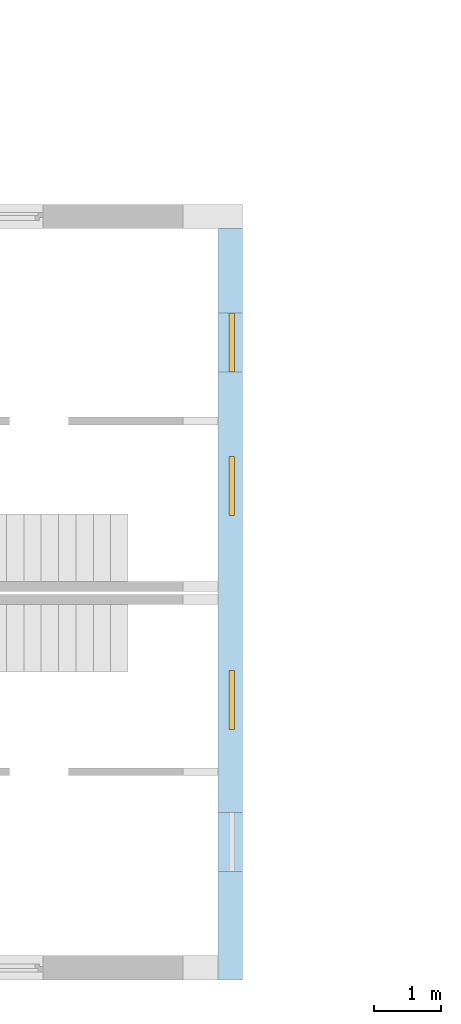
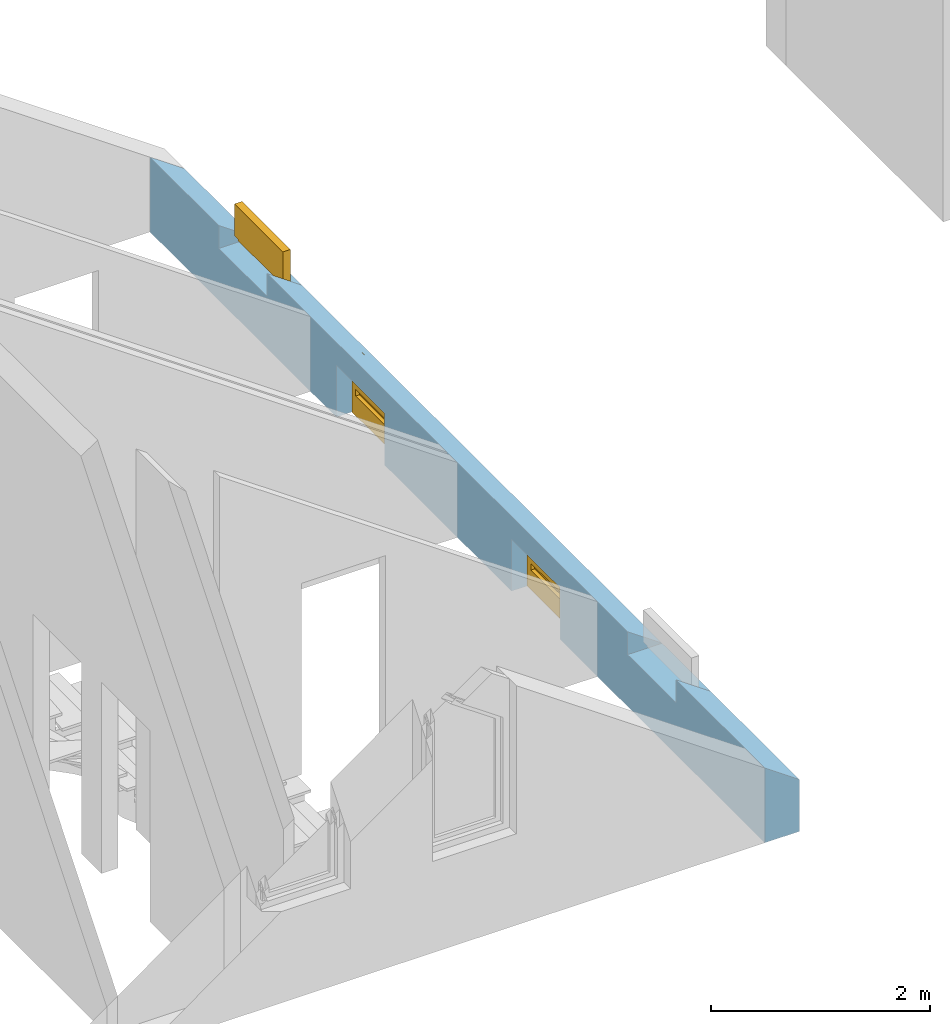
# One storey, part 8 of 23: 3 windows, 4 openings, plus 1 element that does not belong to this part.
"""IFC2X3 building model written with IfcOpenShell, lengths in millimetres."""

from ifc_helpers import new_model, entity, si_unit, converted_unit, frame, frame_2d, origin, origin_with_axes, place, context, subcontext, project, spatial, rectangle, extrude, clip, halfspace, faceted_brep, material, layer, layer_set, layer_usage, type_object, element, fill, save


model = new_model("IFC2X3")

# Units and contexts
model_context = context("Model", 3, precision=1e-05, world=origin())
body_context = subcontext(model_context, "Body", "Model", "MODEL_VIEW")
ifc_project = project(units=[si_unit("LENGTHUNIT", "METRE", prefix="MILLI"), converted_unit("PLANEANGLEUNIT", "DEGREE", entity("IfcPlaneAngleMeasure", 0.0174532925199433), si_unit("PLANEANGLEUNIT", "RADIAN"), dimensions=[0, 0, 0, 0, 0, 0, 0]), si_unit("AREAUNIT", "SQUARE_METRE"), si_unit("VOLUMEUNIT", "CUBIC_METRE")], contexts=[model_context])

# Building, storey
building_placement = place(None, origin())
building = spatial("IfcBuilding", under=ifc_project, at=building_placement, Name="Gebäude", CompositionType="ELEMENT")
storey_placement = place(building_placement, frame((0.0, 0.0, 5580.0), z_axis=(0.0, 0.0, 1.0), x_axis=(1.0, 0.0, 0.0)))
storey = spatial("IfcBuildingStorey", under=building, at=storey_placement, Name="DG.- Grundriss", CompositionType="ELEMENT", Elevation=5580.0)

# Wall, openings, windows
ifc_material_1 = material(Name="Poroton")
ifc_layer = layer(ifc_material_1, 365.0000000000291)
ifc_layer_set = layer_set([ifc_layer])
ifc_layer_usage = layer_usage(ifc_layer_set, "AXIS2", "POSITIVE", 0.0)
wall_placement = place(storey_placement, frame((142357.7928067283, 125274.8877321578, 0.0), z_axis=(0.0, 0.0, 1.0), x_axis=(0.0, 1.0, 0.0)))
wall = element("IfcWallStandardCase", 1, at=wall_placement, inside=storey, material=ifc_layer_usage, Name="<Unnamed Element>", context=body_context, shape_type="Clipping", body=[
    clip(extrude(rectangle(XDim=11250.00000031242, YDim=365.0000000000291, at=frame_2d((5625.000000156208, 182.5000000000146), x_axis=(1.0, 0.0))), origin_with_axes(), (0.0, 0.0, 1.0), 835.5757514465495), halfspace(frame((11250.00000031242, 365.0000000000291, 835.5757514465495), z_axis=(3.642746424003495e-16, 0.5735764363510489, -0.81915204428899), x_axis=(-1.0, 0.0, -4.850638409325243e-16)), True)),
])
opening_1_placement = place(wall_placement, frame((3750.0, 0.0, 0.0), z_axis=(0.0, 1.0, 0.0), x_axis=(0.0, 0.0, 1.0)))
opening_1 = element("IfcOpeningElement", 2, at=opening_1_placement, cuts=wall, Name="Fensteröffnung", ObjectType="Opening", context=body_context, shape_type="SweptSolid", body=[
    extrude(rectangle(XDim=579.99999999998, YDim=885.0, at=frame_2d((289.99999999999, 442.5), x_axis=(1.0, 0.0))), origin_with_axes(), (0.0, 0.0, 1.0), 365.0000000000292),
])
opening_2_placement = place(wall_placement, frame((6955.000000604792, 0.0, 0.0), z_axis=(0.0, 1.0, 0.0), x_axis=(0.0, 0.0, 1.0)))
opening_2 = element("IfcOpeningElement", 3, at=opening_2_placement, cuts=wall, Name="Fensteröffnung", ObjectType="Opening", context=body_context, shape_type="SweptSolid", body=[
    extrude(rectangle(XDim=579.9999999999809, YDim=885.0, at=frame_2d((289.9999999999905, 442.5), x_axis=(1.0, 0.0))), origin_with_axes(), (0.0, 0.0, 1.0), 365.0000000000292),
])
opening_3_placement = place(wall_placement, frame((9105.000000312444, 0.0, 579.9999999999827), z_axis=(0.0, 1.0, 0.0), x_axis=(0.0, 0.0, 1.0)))
opening_3 = element("IfcOpeningElement", 4, at=opening_3_placement, cuts=wall, Name="Fensteröffnung", ObjectType="Opening", context=body_context, shape_type="SweptSolid", body=[
    extrude(rectangle(XDim=440.0000000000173, YDim=885.0, at=frame_2d((220.0000000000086, 442.5), x_axis=(1.0, 0.0))), origin_with_axes(), (0.0, 0.0, 1.0), 365.0000000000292),
])
opening_4_placement = place(wall_placement, frame((1625.0, 0.0, 579.9999999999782), z_axis=(0.0, 1.0, 0.0), x_axis=(0.0, 0.0, 1.0)))
element("IfcOpeningElement", 5, at=opening_4_placement, cuts=wall, Name="Fensteröffnung", ObjectType="Opening", context=body_context, shape_type="SweptSolid", body=[
    extrude(rectangle(XDim=440.0000000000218, YDim=885.0, at=frame_2d((220.0000000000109, 442.5), x_axis=(1.0, 0.0))), origin_with_axes(), (0.0, 0.0, 1.0), 365.0000000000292),
])
ifc_material_2 = material()
window_style_1 = type_object("IfcWindowStyle", Name="Fenster", ConstructionType="NOTDEFINED", OperationType="USERDEFINED", ParameterTakesPrecedence=False, Sizeable=False)
window_1_placement = place(opening_1_placement, frame((0.0, 0.0, 0.0), z_axis=(1.0, 0.0, 0.0), x_axis=(0.0, 1.0, 0.0)))
window_1 = element("IfcWindow", 6, at=window_1_placement, inside=storey, type_object=window_style_1, material=ifc_material_2, Name="Fenster", OverallHeight=835.5757514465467, OverallWidth=885.0, context=body_context, shape_type="Brep", body=[
    faceted_brep([(885.0, 200.0000000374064, 664.024904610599), (815.0000000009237, 200.0000000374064, 664.024904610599), (815.0000000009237, 200.0000000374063, -2.449293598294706e-15), (885.0, 200.0000000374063, -2.449293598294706e-15), (885.0, 120.0000000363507, 2.449293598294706e-15), (815.0000000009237, 120.0000000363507, 2.449293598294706e-15), (815.0000000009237, 120.0000000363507, 664.024904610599), (885.0, 120.0000000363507, 664.024904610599), (885.0, 200.0000000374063, -2.449293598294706e-15), (885.0, 120.0000000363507, 2.449293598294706e-15), (885.0, 120.0000000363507, 664.024904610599), (885.0, 200.0000000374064, 664.024904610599), (815.0000000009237, 200.0000000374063, -2.449293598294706e-15), (815.0000000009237, 120.0000000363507, 2.449293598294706e-15), (885.0, 120.0000000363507, 2.449293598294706e-15), (885.0, 200.0000000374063, -2.449293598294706e-15), (815.0000000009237, 200.0000000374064, 664.024904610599), (815.0000000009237, 120.0000000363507, 664.024904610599), (815.0000000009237, 120.0000000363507, 2.449293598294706e-15), (815.0000000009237, 200.0000000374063, -2.449293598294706e-15), (885.0, 200.0000000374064, 664.024904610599), (885.0, 120.0000000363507, 664.024904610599), (815.0000000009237, 120.0000000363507, 664.024904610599), (815.0000000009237, 200.0000000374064, 664.024904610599)], [[[0, 1, 2, 3]], [[4, 5, 6, 7]], [[8, 9, 10, 11]], [[12, 13, 14, 15]], [[16, 17, 18, 19]], [[20, 21, 22, 23]]], orient=[[False], [False], [False], [False], [False], [False]]),
    faceted_brep([(69.99999999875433, 200.0000000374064, 664.024904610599), (-3.219611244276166e-10, 200.0000000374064, 664.024904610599), (-3.219611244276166e-10, 200.0000000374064, -2.449293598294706e-15), (69.99999999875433, 200.0000000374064, -2.449293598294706e-15), (69.99999999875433, 120.0000000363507, 2.449293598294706e-15), (-3.219611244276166e-10, 120.0000000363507, 2.449293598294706e-15), (-3.219611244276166e-10, 120.0000000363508, 664.024904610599), (69.99999999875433, 120.0000000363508, 664.024904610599), (69.99999999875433, 200.0000000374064, -2.449293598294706e-15), (69.99999999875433, 120.0000000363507, 2.449293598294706e-15), (69.99999999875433, 120.0000000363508, 664.024904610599), (69.99999999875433, 200.0000000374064, 664.024904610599), (-3.219611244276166e-10, 200.0000000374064, -2.449293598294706e-15), (-3.219611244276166e-10, 120.0000000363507, 2.449293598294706e-15), (69.99999999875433, 120.0000000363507, 2.449293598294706e-15), (69.99999999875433, 200.0000000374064, -2.449293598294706e-15), (-3.219611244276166e-10, 200.0000000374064, 664.024904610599), (-3.219611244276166e-10, 120.0000000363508, 664.024904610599), (-3.219611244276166e-10, 120.0000000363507, 2.449293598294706e-15), (-3.219611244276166e-10, 200.0000000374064, -2.449293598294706e-15), (69.99999999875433, 200.0000000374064, 664.024904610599), (69.99999999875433, 120.0000000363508, 664.024904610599), (-3.219611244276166e-10, 120.0000000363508, 664.024904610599), (-3.219611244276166e-10, 200.0000000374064, 664.024904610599)], [[[0, 1, 2, 3]], [[4, 5, 6, 7]], [[8, 9, 10, 11]], [[12, 13, 14, 15]], [[16, 17, 18, 19]], [[20, 21, 22, 23]]], orient=[[False], [False], [False], [False], [False], [False]]),
    faceted_brep([(815.0000000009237, 200.0000000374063, 220.0), (69.99999999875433, 200.0000000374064, 220.0), (69.99999999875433, 200.0000000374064, -2.449293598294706e-15), (815.0000000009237, 200.0000000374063, -2.449293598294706e-15), (815.0000000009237, 120.0000000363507, 2.449293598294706e-15), (69.99999999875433, 120.0000000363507, 2.449293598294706e-15), (69.99999999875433, 120.0000000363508, 220.0), (815.0000000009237, 120.0000000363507, 220.0), (815.0000000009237, 200.0000000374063, -2.449293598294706e-15), (815.0000000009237, 120.0000000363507, 2.449293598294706e-15), (815.0000000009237, 120.0000000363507, 220.0), (815.0000000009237, 200.0000000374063, 220.0), (69.99999999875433, 200.0000000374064, -2.449293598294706e-15), (69.99999999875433, 120.0000000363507, 2.449293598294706e-15), (815.0000000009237, 120.0000000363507, 2.449293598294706e-15), (815.0000000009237, 200.0000000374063, -2.449293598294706e-15), (69.99999999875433, 200.0000000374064, 220.0), (69.99999999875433, 120.0000000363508, 220.0), (69.99999999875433, 120.0000000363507, 2.449293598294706e-15), (69.99999999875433, 200.0000000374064, -2.449293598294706e-15), (815.0000000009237, 200.0000000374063, 220.0), (815.0000000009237, 120.0000000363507, 220.0), (69.99999999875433, 120.0000000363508, 220.0), (69.99999999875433, 200.0000000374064, 220.0)], [[[0, 1, 2, 3]], [[4, 5, 6, 7]], [[8, 9, 10, 11]], [[12, 13, 14, 15]], [[16, 17, 18, 19]], [[20, 21, 22, 23]]], orient=[[False], [False], [False], [False], [False], [False]]),
    faceted_brep([(815.0000000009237, 200.0000000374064, 664.024904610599), (69.99999999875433, 200.0000000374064, 664.024904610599), (69.99999999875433, 200.0000000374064, 294.0249046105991), (815.0000000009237, 200.0000000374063, 294.0249046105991), (815.0000000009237, 120.0000000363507, 294.0249046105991), (69.99999999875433, 120.0000000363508, 294.0249046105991), (69.99999999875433, 120.0000000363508, 664.024904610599), (815.0000000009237, 120.0000000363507, 664.024904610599), (815.0000000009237, 200.0000000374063, 294.0249046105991), (815.0000000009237, 120.0000000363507, 294.0249046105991), (815.0000000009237, 120.0000000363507, 664.024904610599), (815.0000000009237, 200.0000000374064, 664.024904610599), (69.99999999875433, 200.0000000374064, 294.0249046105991), (69.99999999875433, 120.0000000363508, 294.0249046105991), (815.0000000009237, 120.0000000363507, 294.0249046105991), (815.0000000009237, 200.0000000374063, 294.0249046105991), (69.99999999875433, 200.0000000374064, 664.024904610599), (69.99999999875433, 120.0000000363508, 664.024904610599), (69.99999999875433, 120.0000000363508, 294.0249046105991), (69.99999999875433, 200.0000000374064, 294.0249046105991), (815.0000000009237, 200.0000000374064, 664.024904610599), (815.0000000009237, 120.0000000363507, 664.024904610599), (69.99999999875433, 120.0000000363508, 664.024904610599), (69.99999999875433, 200.0000000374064, 664.024904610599)], [[[0, 1, 2, 3]], [[4, 5, 6, 7]], [[8, 9, 10, 11]], [[12, 13, 14, 15]], [[16, 17, 18, 19]], [[20, 21, 22, 23]]], orient=[[False], [False], [False], [False], [False], [False]]),
    faceted_brep([(815.0000000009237, 160.0000000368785, 220.0), (815.0000000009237, 160.0000000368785, 294.0249046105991), (69.99999999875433, 160.0000000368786, 294.0249046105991), (69.99999999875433, 160.0000000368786, 220.0), (815.0000000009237, 159.0000000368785, 220.0), (69.99999999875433, 159.0000000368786, 220.0), (69.99999999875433, 159.0000000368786, 294.0249046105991), (815.0000000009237, 159.0000000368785, 294.0249046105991), (815.0000000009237, 160.0000000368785, 220.0), (815.0000000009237, 159.0000000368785, 220.0), (815.0000000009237, 159.0000000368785, 294.0249046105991), (815.0000000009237, 160.0000000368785, 294.0249046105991), (815.0000000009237, 160.0000000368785, 294.0249046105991), (815.0000000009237, 159.0000000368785, 294.0249046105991), (69.99999999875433, 159.0000000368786, 294.0249046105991), (69.99999999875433, 160.0000000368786, 294.0249046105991), (69.99999999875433, 160.0000000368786, 294.0249046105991), (69.99999999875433, 159.0000000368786, 294.0249046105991), (69.99999999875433, 159.0000000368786, 220.0), (69.99999999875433, 160.0000000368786, 220.0), (69.99999999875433, 160.0000000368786, 220.0), (69.99999999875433, 159.0000000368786, 220.0), (815.0000000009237, 159.0000000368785, 220.0), (815.0000000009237, 160.0000000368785, 220.0)], [[[0, 1, 2, 3]], [[4, 5, 6, 7]], [[8, 9, 10, 11]], [[12, 13, 14, 15]], [[16, 17, 18, 19]], [[20, 21, 22, 23]]], orient=[[False], [False], [False], [False], [False], [False]]),
])
fill(opening_1, window_1)
ifc_material_3 = material()
window_style_2 = type_object("IfcWindowStyle", Name="Fenster", ConstructionType="NOTDEFINED", OperationType="USERDEFINED", ParameterTakesPrecedence=False, Sizeable=False)
window_2_placement = place(opening_2_placement, frame((0.0, 0.0, 0.0), z_axis=(1.0, 0.0, 0.0), x_axis=(0.0, 1.0, 0.0)))
window_2 = element("IfcWindow", 7, at=window_2_placement, inside=storey, type_object=window_style_2, material=ifc_material_3, Name="Fenster", OverallHeight=835.5757514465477, OverallWidth=885.0, context=body_context, shape_type="Brep", body=[
    faceted_brep([(4.898587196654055e-15, 200.0000000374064, 664.024904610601), (4.898587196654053e-15, 200.0000000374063, -2.449293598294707e-15), (69.99999999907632, 200.0000000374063, -2.449293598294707e-15), (69.99999999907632, 200.0000000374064, 664.024904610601), (0.0, 120.0000000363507, 2.449293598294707e-15), (2.610491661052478e-30, 120.0000000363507, 664.024904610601), (69.99999999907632, 120.0000000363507, 664.024904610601), (69.99999999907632, 120.0000000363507, 2.449293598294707e-15), (4.898587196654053e-15, 200.0000000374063, -2.449293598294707e-15), (4.898587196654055e-15, 200.0000000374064, 664.024904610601), (2.610491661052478e-30, 120.0000000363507, 664.024904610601), (0.0, 120.0000000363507, 2.449293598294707e-15), (69.99999999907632, 200.0000000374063, -2.449293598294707e-15), (4.898587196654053e-15, 200.0000000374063, -2.449293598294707e-15), (0.0, 120.0000000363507, 2.449293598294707e-15), (69.99999999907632, 120.0000000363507, 2.449293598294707e-15), (69.99999999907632, 200.0000000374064, 664.024904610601), (69.99999999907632, 200.0000000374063, -2.449293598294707e-15), (69.99999999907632, 120.0000000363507, 2.449293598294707e-15), (69.99999999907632, 120.0000000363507, 664.024904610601), (4.898587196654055e-15, 200.0000000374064, 664.024904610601), (69.99999999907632, 200.0000000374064, 664.024904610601), (69.99999999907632, 120.0000000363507, 664.024904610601), (2.610491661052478e-30, 120.0000000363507, 664.024904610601)], [[[0, 1, 2, 3]], [[4, 5, 6, 7]], [[8, 9, 10, 11]], [[12, 13, 14, 15]], [[16, 17, 18, 19]], [[20, 21, 22, 23]]], orient=[[False], [False], [False], [False], [False], [False]]),
    faceted_brep([(815.0000000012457, 200.0000000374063, 664.024904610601), (815.0000000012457, 200.0000000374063, -2.449293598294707e-15), (885.000000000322, 200.0000000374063, -2.449293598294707e-15), (885.000000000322, 200.0000000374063, 664.024904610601), (815.0000000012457, 120.0000000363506, 2.449293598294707e-15), (815.0000000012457, 120.0000000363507, 664.024904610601), (885.000000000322, 120.0000000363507, 664.024904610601), (885.000000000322, 120.0000000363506, 2.449293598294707e-15), (815.0000000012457, 200.0000000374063, -2.449293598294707e-15), (815.0000000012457, 200.0000000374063, 664.024904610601), (815.0000000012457, 120.0000000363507, 664.024904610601), (815.0000000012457, 120.0000000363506, 2.449293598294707e-15), (885.000000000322, 200.0000000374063, -2.449293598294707e-15), (815.0000000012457, 200.0000000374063, -2.449293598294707e-15), (815.0000000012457, 120.0000000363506, 2.449293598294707e-15), (885.000000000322, 120.0000000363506, 2.449293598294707e-15), (885.000000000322, 200.0000000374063, 664.024904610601), (885.000000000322, 200.0000000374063, -2.449293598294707e-15), (885.000000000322, 120.0000000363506, 2.449293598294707e-15), (885.000000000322, 120.0000000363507, 664.024904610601), (815.0000000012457, 200.0000000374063, 664.024904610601), (885.000000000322, 200.0000000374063, 664.024904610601), (885.000000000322, 120.0000000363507, 664.024904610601), (815.0000000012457, 120.0000000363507, 664.024904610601)], [[[0, 1, 2, 3]], [[4, 5, 6, 7]], [[8, 9, 10, 11]], [[12, 13, 14, 15]], [[16, 17, 18, 19]], [[20, 21, 22, 23]]], orient=[[False], [False], [False], [False], [False], [False]]),
    faceted_brep([(69.99999999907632, 200.0000000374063, 220.0), (69.99999999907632, 200.0000000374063, -2.449293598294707e-15), (815.0000000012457, 200.0000000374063, -2.449293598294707e-15), (815.0000000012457, 200.0000000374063, 220.0), (69.99999999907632, 120.0000000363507, 2.449293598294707e-15), (69.99999999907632, 120.0000000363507, 220.0), (815.0000000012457, 120.0000000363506, 220.0), (815.0000000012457, 120.0000000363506, 2.449293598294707e-15), (69.99999999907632, 200.0000000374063, -2.449293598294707e-15), (69.99999999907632, 200.0000000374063, 220.0), (69.99999999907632, 120.0000000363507, 220.0), (69.99999999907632, 120.0000000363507, 2.449293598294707e-15), (815.0000000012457, 200.0000000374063, -2.449293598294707e-15), (69.99999999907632, 200.0000000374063, -2.449293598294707e-15), (69.99999999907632, 120.0000000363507, 2.449293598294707e-15), (815.0000000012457, 120.0000000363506, 2.449293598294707e-15), (815.0000000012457, 200.0000000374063, 220.0), (815.0000000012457, 200.0000000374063, -2.449293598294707e-15), (815.0000000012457, 120.0000000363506, 2.449293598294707e-15), (815.0000000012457, 120.0000000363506, 220.0), (69.99999999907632, 200.0000000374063, 220.0), (815.0000000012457, 200.0000000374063, 220.0), (815.0000000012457, 120.0000000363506, 220.0), (69.99999999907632, 120.0000000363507, 220.0)], [[[0, 1, 2, 3]], [[4, 5, 6, 7]], [[8, 9, 10, 11]], [[12, 13, 14, 15]], [[16, 17, 18, 19]], [[20, 21, 22, 23]]], orient=[[False], [False], [False], [False], [False], [False]]),
    faceted_brep([(69.99999999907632, 200.0000000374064, 664.024904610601), (69.99999999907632, 200.0000000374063, 294.0249046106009), (815.0000000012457, 200.0000000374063, 294.0249046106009), (815.0000000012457, 200.0000000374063, 664.024904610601), (69.99999999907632, 120.0000000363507, 294.0249046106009), (69.99999999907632, 120.0000000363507, 664.024904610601), (815.0000000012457, 120.0000000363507, 664.024904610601), (815.0000000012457, 120.0000000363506, 294.0249046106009), (69.99999999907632, 200.0000000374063, 294.0249046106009), (69.99999999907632, 200.0000000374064, 664.024904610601), (69.99999999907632, 120.0000000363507, 664.024904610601), (69.99999999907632, 120.0000000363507, 294.0249046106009), (815.0000000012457, 200.0000000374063, 294.0249046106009), (69.99999999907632, 200.0000000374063, 294.0249046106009), (69.99999999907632, 120.0000000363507, 294.0249046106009), (815.0000000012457, 120.0000000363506, 294.0249046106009), (815.0000000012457, 200.0000000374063, 664.024904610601), (815.0000000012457, 200.0000000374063, 294.0249046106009), (815.0000000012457, 120.0000000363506, 294.0249046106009), (815.0000000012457, 120.0000000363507, 664.024904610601), (69.99999999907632, 200.0000000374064, 664.024904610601), (815.0000000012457, 200.0000000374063, 664.024904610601), (815.0000000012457, 120.0000000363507, 664.024904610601), (69.99999999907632, 120.0000000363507, 664.024904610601)], [[[0, 1, 2, 3]], [[4, 5, 6, 7]], [[8, 9, 10, 11]], [[12, 13, 14, 15]], [[16, 17, 18, 19]], [[20, 21, 22, 23]]], orient=[[False], [False], [False], [False], [False], [False]]),
    faceted_brep([(69.99999999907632, 160.0000000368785, 220.0), (815.0000000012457, 160.0000000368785, 220.0), (815.0000000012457, 160.0000000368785, 294.024904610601), (69.99999999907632, 160.0000000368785, 294.024904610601), (69.99999999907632, 159.0000000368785, 220.0), (69.99999999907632, 159.0000000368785, 294.024904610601), (815.0000000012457, 159.0000000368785, 294.024904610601), (815.0000000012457, 159.0000000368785, 220.0), (69.99999999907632, 160.0000000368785, 220.0), (69.99999999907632, 159.0000000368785, 220.0), (815.0000000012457, 159.0000000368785, 220.0), (815.0000000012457, 160.0000000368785, 220.0), (815.0000000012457, 160.0000000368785, 220.0), (815.0000000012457, 159.0000000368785, 220.0), (815.0000000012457, 159.0000000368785, 294.024904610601), (815.0000000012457, 160.0000000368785, 294.024904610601), (815.0000000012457, 160.0000000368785, 294.024904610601), (815.0000000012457, 159.0000000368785, 294.024904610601), (69.99999999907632, 159.0000000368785, 294.024904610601), (69.99999999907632, 160.0000000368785, 294.024904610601), (69.99999999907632, 160.0000000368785, 294.024904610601), (69.99999999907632, 159.0000000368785, 294.024904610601), (69.99999999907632, 159.0000000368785, 220.0), (69.99999999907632, 160.0000000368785, 220.0)], [[[0, 1, 2, 3]], [[4, 5, 6, 7]], [[8, 9, 10, 11]], [[12, 13, 14, 15]], [[16, 17, 18, 19]], [[20, 21, 22, 23]]], orient=[[False], [False], [False], [False], [False], [False]]),
])
fill(opening_2, window_2)
ifc_material_4 = material()
window_style_3 = type_object("IfcWindowStyle", Name="Fenster", ConstructionType="NOTDEFINED", OperationType="USERDEFINED", ParameterTakesPrecedence=False, Sizeable=False)
window_3_placement = place(opening_3_placement, frame((0.0, 0.0, 0.0), z_axis=(1.0, 0.0, 0.0), x_axis=(0.0, 1.0, 0.0)))
window_3 = element("IfcWindow", 8, at=window_3_placement, inside=storey, type_object=window_style_3, material=ifc_material_4, Name="Fenster", OverallHeight=440.0000000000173, OverallWidth=885.0, context=body_context, shape_type="Brep", body=[
    faceted_brep([(885.0, 200.0000000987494, 440.0000000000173), (815.0, 200.0000000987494, 440.0000000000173), (815.0, 200.0000000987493, 84.02490465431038), (885.0, 200.0000000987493, 84.02490465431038), (885.0, 120.0000000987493, 84.02490465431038), (815.0, 120.0000000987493, 84.02490465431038), (815.0, 120.0000000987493, 440.0000000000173), (885.0, 120.0000000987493, 440.0000000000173), (885.0, 200.0000000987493, 84.02490465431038), (885.0, 120.0000000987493, 84.02490465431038), (885.0, 120.0000000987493, 440.0000000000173), (885.0, 200.0000000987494, 440.0000000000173), (815.0, 200.0000000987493, 84.02490465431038), (815.0, 120.0000000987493, 84.02490465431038), (885.0, 120.0000000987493, 84.02490465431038), (885.0, 200.0000000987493, 84.02490465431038), (815.0, 200.0000000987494, 440.0000000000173), (815.0, 120.0000000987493, 440.0000000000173), (815.0, 120.0000000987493, 84.02490465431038), (815.0, 200.0000000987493, 84.02490465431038), (885.0, 200.0000000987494, 440.0000000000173), (885.0, 120.0000000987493, 440.0000000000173), (815.0, 120.0000000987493, 440.0000000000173), (815.0, 200.0000000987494, 440.0000000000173)], [[[0, 1, 2, 3]], [[4, 5, 6, 7]], [[8, 9, 10, 11]], [[12, 13, 14, 15]], [[16, 17, 18, 19]], [[20, 21, 22, 23]]], orient=[[False], [False], [False], [False], [False], [False]]),
    faceted_brep([(69.99999998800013, 200.0000000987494, 440.0000000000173), (-1.199987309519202e-08, 200.0000000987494, 440.0000000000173), (-1.199987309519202e-08, 200.0000000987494, 84.02490465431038), (69.99999998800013, 200.0000000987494, 84.02490465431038), (69.99999998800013, 120.0000000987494, 84.02490465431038), (-1.199987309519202e-08, 120.0000000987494, 84.02490465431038), (-1.199987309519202e-08, 120.0000000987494, 440.0000000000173), (69.99999998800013, 120.0000000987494, 440.0000000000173), (69.99999998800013, 200.0000000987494, 84.02490465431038), (69.99999998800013, 120.0000000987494, 84.02490465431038), (69.99999998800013, 120.0000000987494, 440.0000000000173), (69.99999998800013, 200.0000000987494, 440.0000000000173), (-1.199987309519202e-08, 200.0000000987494, 84.02490465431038), (-1.199987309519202e-08, 120.0000000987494, 84.02490465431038), (69.99999998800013, 120.0000000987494, 84.02490465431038), (69.99999998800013, 200.0000000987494, 84.02490465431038), (-1.199987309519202e-08, 200.0000000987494, 440.0000000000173), (-1.199987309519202e-08, 120.0000000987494, 440.0000000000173), (-1.199987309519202e-08, 120.0000000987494, 84.02490465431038), (-1.199987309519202e-08, 200.0000000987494, 84.02490465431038), (69.99999998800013, 200.0000000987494, 440.0000000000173), (69.99999998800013, 120.0000000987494, 440.0000000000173), (-1.199987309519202e-08, 120.0000000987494, 440.0000000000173), (-1.199987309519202e-08, 200.0000000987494, 440.0000000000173)], [[[0, 1, 2, 3]], [[4, 5, 6, 7]], [[8, 9, 10, 11]], [[12, 13, 14, 15]], [[16, 17, 18, 19]], [[20, 21, 22, 23]]], orient=[[False], [False], [False], [False], [False], [False]]),
    faceted_brep([(815.0, 200.0000000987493, 154.0249046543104), (69.99999998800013, 200.0000000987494, 154.0249046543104), (69.99999998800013, 200.0000000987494, 84.02490465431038), (815.0, 200.0000000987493, 84.02490465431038), (815.0, 120.0000000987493, 84.02490465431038), (69.99999998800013, 120.0000000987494, 84.02490465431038), (69.99999998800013, 120.0000000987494, 154.0249046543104), (815.0, 120.0000000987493, 154.0249046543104), (815.0, 200.0000000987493, 84.02490465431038), (815.0, 120.0000000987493, 84.02490465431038), (815.0, 120.0000000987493, 154.0249046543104), (815.0, 200.0000000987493, 154.0249046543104), (69.99999998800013, 200.0000000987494, 84.02490465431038), (69.99999998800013, 120.0000000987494, 84.02490465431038), (815.0, 120.0000000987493, 84.02490465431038), (815.0, 200.0000000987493, 84.02490465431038), (69.99999998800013, 200.0000000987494, 154.0249046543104), (69.99999998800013, 120.0000000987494, 154.0249046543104), (69.99999998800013, 120.0000000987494, 84.02490465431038), (69.99999998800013, 200.0000000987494, 84.02490465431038), (815.0, 200.0000000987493, 154.0249046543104), (815.0, 120.0000000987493, 154.0249046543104), (69.99999998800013, 120.0000000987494, 154.0249046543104), (69.99999998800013, 200.0000000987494, 154.0249046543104)], [[[0, 1, 2, 3]], [[4, 5, 6, 7]], [[8, 9, 10, 11]], [[12, 13, 14, 15]], [[16, 17, 18, 19]], [[20, 21, 22, 23]]], orient=[[False], [False], [False], [False], [False], [False]]),
    faceted_brep([(815.0, 200.0000000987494, 440.0000000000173), (69.99999998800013, 200.0000000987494, 440.0000000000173), (69.99999998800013, 200.0000000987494, 70.00000000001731), (815.0, 200.0000000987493, 70.00000000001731), (815.0, 120.0000000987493, 70.00000000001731), (69.99999998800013, 120.0000000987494, 70.00000000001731), (69.99999998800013, 120.0000000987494, 440.0000000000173), (815.0, 120.0000000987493, 440.0000000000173), (815.0, 200.0000000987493, 70.00000000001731), (815.0, 120.0000000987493, 70.00000000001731), (815.0, 120.0000000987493, 440.0000000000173), (815.0, 200.0000000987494, 440.0000000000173), (69.99999998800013, 200.0000000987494, 70.00000000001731), (69.99999998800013, 120.0000000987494, 70.00000000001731), (815.0, 120.0000000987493, 70.00000000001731), (815.0, 200.0000000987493, 70.00000000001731), (69.99999998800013, 200.0000000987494, 440.0000000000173), (69.99999998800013, 120.0000000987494, 440.0000000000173), (69.99999998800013, 120.0000000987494, 70.00000000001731), (69.99999998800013, 200.0000000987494, 70.00000000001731), (815.0, 200.0000000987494, 440.0000000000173), (815.0, 120.0000000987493, 440.0000000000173), (69.99999998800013, 120.0000000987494, 440.0000000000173), (69.99999998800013, 200.0000000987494, 440.0000000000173)], [[[0, 1, 2, 3]], [[4, 5, 6, 7]], [[8, 9, 10, 11]], [[12, 13, 14, 15]], [[16, 17, 18, 19]], [[20, 21, 22, 23]]], orient=[[False], [False], [False], [False], [False], [False]]),
])
fill(opening_3, window_3)

save(model, "model.ifc")
